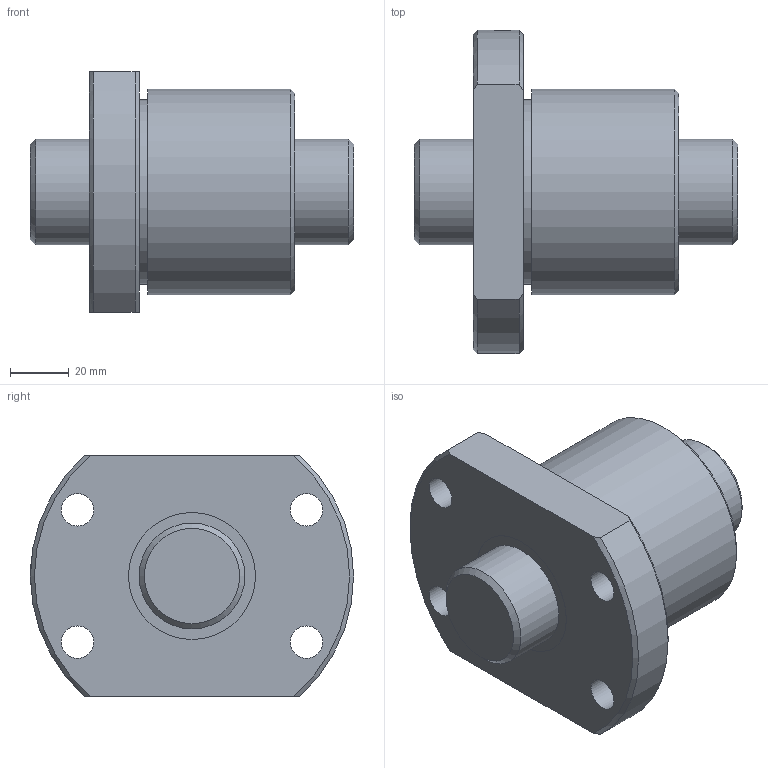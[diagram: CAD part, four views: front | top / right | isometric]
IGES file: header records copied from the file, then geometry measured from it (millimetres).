
Start section: Data from Parasolid IGES Translator 26.0.171, Copyright(c) 2006 Siemens PLM Software. All Rights Reserved.
Global section: file name: BTK3610V-2.6ZZ+110LC7T_000.igs; native system: By Siemens PLM Incorporated; preprocessor: XPlus GENERIC/IGES 26.0.171; author: Noname; organization: Noname; date: 20250116.075808; units: millimetre
Bounding box: 110 x 110 x 82 mm (x, y, z)
Surface area: 56622.8 mm2 (no closed solid volume)
Topology: 0 solids, 0 shells, 31 faces, 142 edges, 126 vertices
Faces by surface type: revolution 21, extrusion 10
